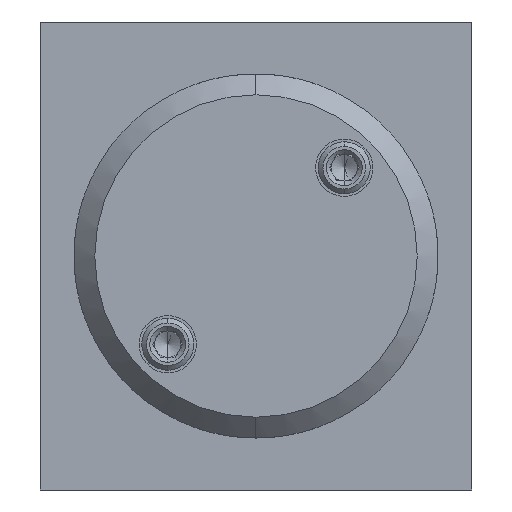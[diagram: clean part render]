
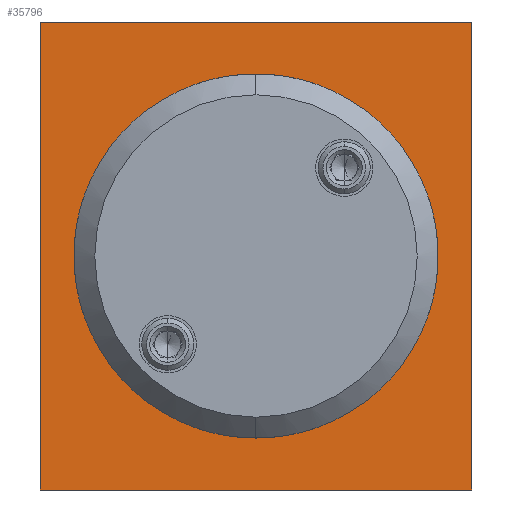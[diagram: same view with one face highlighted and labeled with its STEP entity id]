
A CAD part, left-side view. The second image highlights one B-rep face of the part: STEP entity #35796.
In plain terms, the highlighted planar face has unit normal (-1, 0, 0).
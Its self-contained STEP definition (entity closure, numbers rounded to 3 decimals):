
#726 = CARTESIAN_POINT ( 'NONE',  ( -46., -21.457, -22.5 ) ) ;
#820 = EDGE_CURVE ( 'NONE', #45981, #19563, #6767, .T. ) ;
#1762 = DIRECTION ( 'NONE',  ( -1., 0., 0. ) ) ;
#2869 = CARTESIAN_POINT ( 'NONE',  ( -46., -20.75, -22.5 ) ) ;
#3494 = VECTOR ( 'NONE', #8941, 1000. ) ;
#4358 = ORIENTED_EDGE ( 'NONE', *, *, #24186, .T. ) ;
#4688 = AXIS2_PLACEMENT_3D ( 'NONE', #29903, #1762, #34619 ) ;
#6767 = CIRCLE ( 'NONE', #27065, 16. ) ;
#7952 = AXIS2_PLACEMENT_3D ( 'NONE', #43361, #15259, #48123 ) ;
#8779 = LINE ( 'NONE', #32442, #44762 ) ;
#8941 = DIRECTION ( 'NONE',  ( 0., 0., 1. ) ) ;
#11380 = EDGE_LOOP ( 'NONE', ( #28669, #36712 ) ) ;
#13640 = CARTESIAN_POINT ( 'NONE',  ( -46., 20.75, -23.207 ) ) ;
#14733 = FACE_OUTER_BOUND ( 'NONE', #48120, .T. ) ;
#15259 = DIRECTION ( 'NONE',  ( -1., 0., 0. ) ) ;
#16029 = LINE ( 'NONE', #13640, #3494 ) ;
#17515 = LINE ( 'NONE', #44039, #53494 ) ;
#18644 = ORIENTED_EDGE ( 'NONE', *, *, #30977, .T. ) ;
#19563 = VERTEX_POINT ( 'NONE', #44494 ) ;
#19593 = DIRECTION ( 'NONE',  ( 0., 1., 0. ) ) ;
#20168 = ORIENTED_EDGE ( 'NONE', *, *, #41791, .F. ) ;
#21299 = VERTEX_POINT ( 'NONE', #2869 ) ;
#21968 = LINE ( 'NONE', #726, #56504 ) ;
#23797 = DIRECTION ( 'NONE',  ( -1., 0., 0. ) ) ;
#24186 = EDGE_CURVE ( 'NONE', #28205, #37154, #8779, .T. ) ;
#24491 = PLANE ( 'NONE',  #7952 ) ;
#25648 = CARTESIAN_POINT ( 'NONE',  ( -46., 0., 0. ) ) ;
#25731 = FACE_BOUND ( 'NONE', #11380, .T. ) ;
#27065 = AXIS2_PLACEMENT_3D ( 'NONE', #25648, #23797, #57866 ) ;
#27296 = CARTESIAN_POINT ( 'NONE',  ( -46., -20.75, 22.5 ) ) ;
#28205 = VERTEX_POINT ( 'NONE', #27296 ) ;
#28669 = ORIENTED_EDGE ( 'NONE', *, *, #820, .F. ) ;
#29420 = CIRCLE ( 'NONE', #4688, 16. ) ;
#29903 = CARTESIAN_POINT ( 'NONE',  ( -46., 0., 0. ) ) ;
#30977 = EDGE_CURVE ( 'NONE', #21299, #28205, #17515, .T. ) ;
#32442 = CARTESIAN_POINT ( 'NONE',  ( -46., -21.457, 22.5 ) ) ;
#34229 = EDGE_CURVE ( 'NONE', #19563, #45981, #29420, .T. ) ;
#34619 = DIRECTION ( 'NONE',  ( 0., -1., 0. ) ) ;
#35796 = ADVANCED_FACE ( 'NONE', ( #14733, #25731 ), #24491, .T. ) ;
#36541 = CARTESIAN_POINT ( 'NONE',  ( -46., 20.75, -22.5 ) ) ;
#36712 = ORIENTED_EDGE ( 'NONE', *, *, #34229, .F. ) ;
#37154 = VERTEX_POINT ( 'NONE', #55124 ) ;
#41791 = EDGE_CURVE ( 'NONE', #45613, #37154, #16029, .T. ) ;
#43361 = CARTESIAN_POINT ( 'NONE',  ( -46., 20.75, -22.5 ) ) ;
#44039 = CARTESIAN_POINT ( 'NONE',  ( -46., -20.75, -23.207 ) ) ;
#44494 = CARTESIAN_POINT ( 'NONE',  ( -46., 16., 0. ) ) ;
#44762 = VECTOR ( 'NONE', #51337, 1000. ) ;
#45613 = VERTEX_POINT ( 'NONE', #36541 ) ;
#45905 = CARTESIAN_POINT ( 'NONE',  ( -46., -16., 0. ) ) ;
#45981 = VERTEX_POINT ( 'NONE', #45905 ) ;
#48120 = EDGE_LOOP ( 'NONE', ( #20168, #60635, #18644, #4358 ) ) ;
#48123 = DIRECTION ( 'NONE',  ( 0., -1., 0. ) ) ;
#51337 = DIRECTION ( 'NONE',  ( 0., 1., 0. ) ) ;
#53494 = VECTOR ( 'NONE', #53514, 1000. ) ;
#53514 = DIRECTION ( 'NONE',  ( 0., 0., 1. ) ) ;
#55124 = CARTESIAN_POINT ( 'NONE',  ( -46., 20.75, 22.5 ) ) ;
#56504 = VECTOR ( 'NONE', #19593, 1000. ) ;
#57866 = DIRECTION ( 'NONE',  ( 0., -1., 0. ) ) ;
#60526 = EDGE_CURVE ( 'NONE', #21299, #45613, #21968, .T. ) ;
#60635 = ORIENTED_EDGE ( 'NONE', *, *, #60526, .F. ) ;
